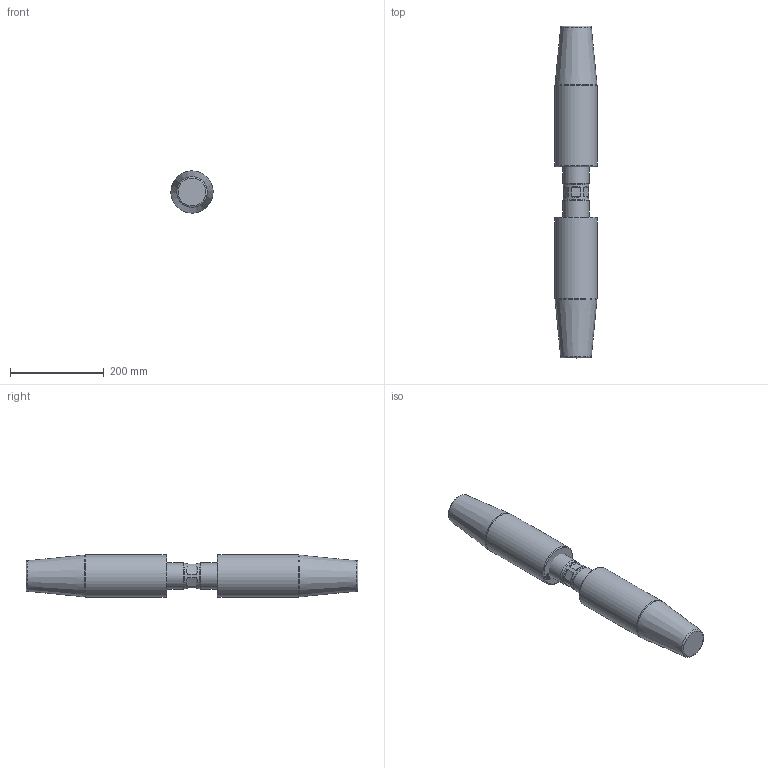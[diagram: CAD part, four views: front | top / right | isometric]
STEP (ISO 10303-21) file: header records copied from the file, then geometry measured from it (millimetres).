
FILE_DESCRIPTION(/* description */ (''),/* implementation_level */ '2;1');
FILE_NAME(/* name */ 'D:\Clienti\Redaelli (inventor)\CYA\STEP\Arrangement\CYA028 52 061 2.stp',/* time_stamp */ '2021-05-09T10:05:55+02:00',/* author */ ('fabri'),/* organization */ (''),/* preprocessor_version */ 'ST-DEVELOPER v16.13',/* originating_system */ 'Autodesk Inventor 2018',/* authorisation */ '');
FILE_SCHEMA (('AUTOMOTIVE_DESIGN { 1 0 10303 214 3 1 1 }'));
Length unit declared in the file: millimetre
Products named in the file (4): CYA012-54-062-0; TBF012-12-012-1; TBF012-13-012-0; TBF012-13-012-0_1
Assembly tree (3 placements, depth 2):
  CYA012-54-062-0
    TBF012-12-012-1
    TBF012-13-012-0
    TBF012-13-012-0_1
Bounding box: 89.94 x 709 x 89.94 mm (x, y, z)
Volume: 4197382.8 mm3; surface area: 239826 mm2
Topology: 3 solids, 3 shells, 503 faces, 1345 edges, 897 vertices
Faces by surface type: bspline 282, plane 192, cylinder 18, cone 7, torus 4
Full cylindrical faces by diameter (mm): 4.917 x1, 54 x1, 56 x2, 90 x2
Entity records: 17502 total; most frequent: CARTESIAN_POINT 6837, ORIENTED_EDGE 2654, EDGE_CURVE 1327, DIRECTION 1223, VERTEX_POINT 896, LINE 715, VECTOR 715, B_SPLINE_CURVE_WITH_KNOTS 584
